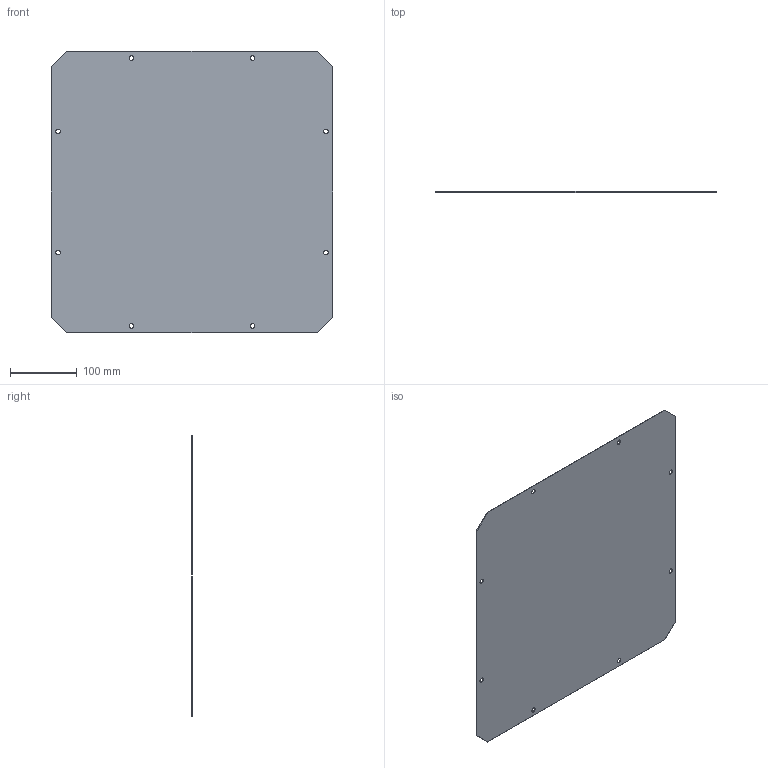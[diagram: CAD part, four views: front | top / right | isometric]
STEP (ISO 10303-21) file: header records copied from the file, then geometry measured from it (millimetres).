
FILE_DESCRIPTION (( 'STEP AP203' ), '1' );
FILE_NAME ('PV 38.38 IS Ïàíåëü ãëóõàÿ.STEP', '2013-01-12T06:56:16', ( 'System' ), ( '' ), 'SwSTEP 2.0', 'SolidWorks 2012', '' );
FILE_SCHEMA (( 'CONFIG_CONTROL_DESIGN' ));
Length unit declared in the file: millimetre
Products named in the file (1): PV 38.38 IS Ïàíåëü ãëóõàÿ
Bounding box: 422 x 1.2 x 422 mm (x, y, z)
Volume: 212061.7 mm3; surface area: 355608.3 mm2
Topology: 1 solids, 1 shells, 26 faces, 72 edges, 48 vertices
Faces by surface type: cylinder 16, plane 10
Entity records: 957 total; most frequent: DIRECTION 158, CARTESIAN_POINT 147, ORIENTED_EDGE 144, EDGE_CURVE 72, AXIS2_PLACEMENT_3D 59, VERTEX_POINT 48, EDGE_LOOP 42, VECTOR 40
